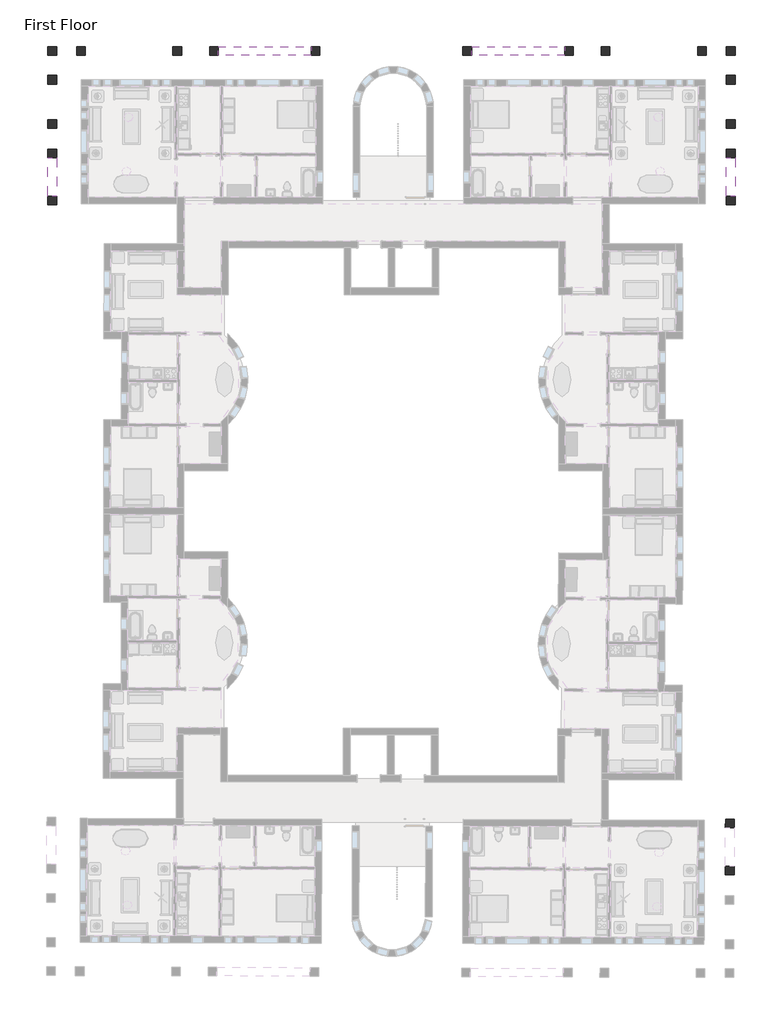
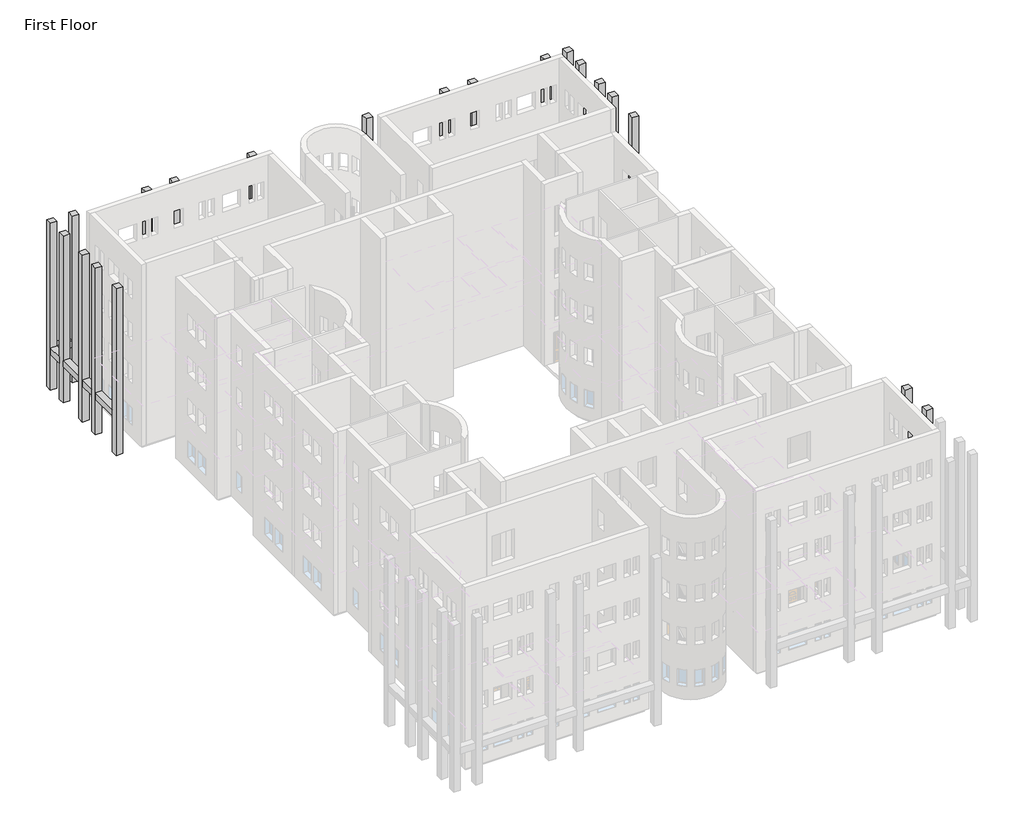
# One storey, part 18 of 23: 20 columns, 4 beams.
"""IFC4 building model written with IfcOpenShell, lengths in millimetres."""

from ifc_helpers import new_model, si_unit, frame, origin, place, context, project, spatial, polyline, outline, extrude, faceted_brep, element, save

model = new_model("IFC4")

# Units and contexts
model_context = context("Model", 3, world=origin())
ifc_project = project(units=[si_unit("LENGTHUNIT", "METRE", prefix="MILLI")], contexts=[model_context])

# Site, building, storey
site = spatial("IfcSite", under=ifc_project)
building = spatial("IfcBuilding", under=site)
storey = spatial("IfcBuildingStorey", under=building, Name="First Floor", Elevation=0.0)

# Beams
placement = place(None, origin())
element("IfcBeam", 1, ObjectType="M_Concrete-Rectangular Beam : 450 x 450", at=placement, inside=storey, context=model_context, shape_type="SweptSolid", body=[
    extrude(outline(polyline([(-1643.3416203, 4481.1188386), (-1643.3416203, 4031.1188386), (-2693.3416203, 4031.1188386), (-2693.3416203, 4481.1188386), (-1643.3416203, 4481.1188386)])), frame((0.0, 0.0, 2598.0), z_axis=(0.0, 0.0, 1.0), x_axis=(1.0, 0.0, 0.0)), (0.0, 0.0, 1.0), 450.0),
    extrude(outline(polyline([(-14885.3416203, 4031.1188386), (-14885.3416203, 4481.1188386), (-10043.3416203, 4481.1188386), (-10043.3416203, 4031.1188386), (-14885.3416203, 4031.1188386)])), frame((0.0, 0.0, 2598.0), z_axis=(0.0, 0.0, 1.0), x_axis=(1.0, 0.0, 0.0)), (0.0, 0.0, 1.0), 450.0),
    extrude(outline(polyline([(-3143.3416203, 4481.1188386), (-3143.3416203, 4031.1188386), (-7693.3416203, 4031.1188386), (-7693.3416203, 4481.1188386), (-3143.3416203, 4481.1188386)])), frame((0.0, 0.0, 2598.0), z_axis=(0.0, 0.0, 1.0), x_axis=(1.0, 0.0, 0.0)), (0.0, 0.0, 1.0), 450.0),
    extrude(outline(polyline([(-8143.3416203, 4481.1188386), (-8143.3416203, 4031.1188386), (-9593.3416203, 4031.1188386), (-9593.3416203, 4481.1188386), (-8143.3416203, 4481.1188386)])), frame((0.0, 0.0, 2598.0), z_axis=(0.0, 0.0, 1.0), x_axis=(1.0, 0.0, 0.0)), (0.0, 0.0, 1.0), 450.0),
])
element("IfcBeam", 2, ObjectType="M_Concrete-Rectangular Beam : 450 x 450", at=placement, inside=storey, context=model_context, shape_type="SweptSolid", body=[
    extrude(outline(polyline([(-1193.3416203, -3289.8811614), (-1643.3416203, -3289.8811614), (-1643.3416203, -1295.3811614), (-1193.3416203, -1295.3811614), (-1193.3416203, -3289.8811614)])), frame((0.0, 0.0, 2598.0), z_axis=(0.0, 0.0, 1.0), x_axis=(1.0, 0.0, 0.0)), (0.0, 0.0, 1.0), 450.0),
    extrude(outline(polyline([(-1643.3416203, 4031.1188386), (-1193.3416203, 4031.1188386), (-1193.3416203, 2981.1188386), (-1643.3416203, 2981.1188386), (-1643.3416203, 4031.1188386)])), frame((0.0, 0.0, 2598.0), z_axis=(0.0, 0.0, 1.0), x_axis=(1.0, 0.0, 0.0)), (0.0, 0.0, 1.0), 450.0),
    extrude(outline(polyline([(-1643.3416203, 2531.1188386), (-1193.3416203, 2531.1188386), (-1193.3416203, 681.1188386), (-1643.3416203, 681.1188386), (-1643.3416203, 2531.1188386)])), frame((0.0, 0.0, 2598.0), z_axis=(0.0, 0.0, 1.0), x_axis=(1.0, 0.0, 0.0)), (0.0, 0.0, 1.0), 450.0),
    extrude(outline(polyline([(-1643.3416203, 231.1188386), (-1193.3416203, 231.1188386), (-1193.3416203, -845.3811614), (-1643.3416203, -845.3811614), (-1643.3416203, 231.1188386)])), frame((0.0, 0.0, 2598.0), z_axis=(0.0, 0.0, 1.0), x_axis=(1.0, 0.0, 0.0)), (0.0, 0.0, 1.0), 450.0),
])
element("IfcBeam", 3, ObjectType="M_Concrete-Rectangular Beam : 450 x 450", at=placement, inside=storey, context=model_context, shape_type="SweptSolid", body=[
    extrude(outline(polyline([(-36458.8416203, 4031.1188386), (-36458.8416203, 4481.1188386), (-35408.8416203, 4481.1188386), (-35408.8416203, 4031.1188386), (-36458.8416203, 4031.1188386)])), frame((0.0, 0.0, 2598.0), z_axis=(0.0, 0.0, 1.0), x_axis=(1.0, 0.0, 0.0)), (0.0, 0.0, 1.0), 450.0),
    extrude(outline(polyline([(-23216.8416203, 4481.1188386), (-23216.8416203, 4031.1188386), (-28058.8416203, 4031.1188386), (-28058.8416203, 4481.1188386), (-23216.8416203, 4481.1188386)])), frame((0.0, 0.0, 2598.0), z_axis=(0.0, 0.0, 1.0), x_axis=(1.0, 0.0, 0.0)), (0.0, 0.0, 1.0), 450.0),
    extrude(outline(polyline([(-34958.8416203, 4031.1188386), (-34958.8416203, 4481.1188386), (-30408.8416203, 4481.1188386), (-30408.8416203, 4031.1188386), (-34958.8416203, 4031.1188386)])), frame((0.0, 0.0, 2598.0), z_axis=(0.0, 0.0, 1.0), x_axis=(1.0, 0.0, 0.0)), (0.0, 0.0, 1.0), 450.0),
    extrude(outline(polyline([(-29958.8416203, 4031.1188386), (-29958.8416203, 4481.1188386), (-28508.8416203, 4481.1188386), (-28508.8416203, 4031.1188386), (-29958.8416203, 4031.1188386)])), frame((0.0, 0.0, 2598.0), z_axis=(0.0, 0.0, 1.0), x_axis=(1.0, 0.0, 0.0)), (0.0, 0.0, 1.0), 450.0),
])
element("IfcBeam", 4, ObjectType="M_Concrete-Rectangular Beam : 450 x 450", at=placement, inside=storey, context=model_context, shape_type="SweptSolid", body=[
    extrude(outline(polyline([(-36458.8416203, -3289.8811614), (-36908.8416203, -3289.8811614), (-36908.8416203, -1295.3811614), (-36458.8416203, -1295.3811614), (-36458.8416203, -3289.8811614)])), frame((0.0, 0.0, 2598.0), z_axis=(0.0, 0.0, 1.0), x_axis=(1.0, 0.0, 0.0)), (0.0, 0.0, 1.0), 450.0),
    extrude(outline(polyline([(-36458.8416203, 2981.1188386), (-36908.8416203, 2981.1188386), (-36908.8416203, 4031.1188386), (-36458.8416203, 4031.1188386), (-36458.8416203, 2981.1188386)])), frame((0.0, 0.0, 2598.0), z_axis=(0.0, 0.0, 1.0), x_axis=(1.0, 0.0, 0.0)), (0.0, 0.0, 1.0), 450.0),
    extrude(outline(polyline([(-36908.8416203, 2531.1188386), (-36458.8416203, 2531.1188386), (-36458.8416203, 681.1188386), (-36908.8416203, 681.1188386), (-36908.8416203, 2531.1188386)])), frame((0.0, 0.0, 2598.0), z_axis=(0.0, 0.0, 1.0), x_axis=(1.0, 0.0, 0.0)), (0.0, 0.0, 1.0), 450.0),
    extrude(outline(polyline([(-36908.8416203, 231.1188386), (-36458.8416203, 231.1188386), (-36458.8416203, -845.3811614), (-36908.8416203, -845.3811614), (-36908.8416203, 231.1188386)])), frame((0.0, 0.0, 2598.0), z_axis=(0.0, 0.0, 1.0), x_axis=(1.0, 0.0, 0.0)), (0.0, 0.0, 1.0), 450.0),
])

# Columns
element("IfcColumn", 5, ObjectType="M_Concrete-Square-Column : 450 x 450mm", at=placement, inside=storey, context=model_context, shape_type="Brep", body=[
    faceted_brep([(-2693.3416203, 4481.1188386, 0.0), (-2693.3416203, 4031.1188386, 0.0), (-3143.3416203, 4031.1188386, 0.0), (-3143.3416203, 4481.1188386, 0.0), (-2693.3416203, 4481.1188386, 12042.0), (-2693.3416203, 4031.1188386, 12042.0), (-2693.3416203, 4031.1188386, 11742.0), (-2693.3416203, 4031.1188386, 9144.0), (-2693.3416203, 4031.1188386, 8694.0), (-2693.3416203, 4031.1188386, 6096.0), (-2693.3416203, 4031.1188386, 5646.0), (-2693.3416203, 4031.1188386, 3048.0), (-2693.3416203, 4031.1188386, 2598.0), (-2693.3416203, 4481.1188386, 2598.0), (-2693.3416203, 4481.1188386, 3048.0), (-2693.3416203, 4481.1188386, 5646.0), (-2693.3416203, 4481.1188386, 6096.0), (-2693.3416203, 4481.1188386, 8694.0), (-2693.3416203, 4481.1188386, 9144.0), (-2693.3416203, 4481.1188386, 11742.0), (-3143.3416203, 4031.1188386, 12042.0), (-3143.3416203, 4031.1188386, 11742.0), (-3143.3416203, 4031.1188386, 9144.0), (-3143.3416203, 4031.1188386, 8694.0), (-3143.3416203, 4031.1188386, 6096.0), (-3143.3416203, 4031.1188386, 5646.0), (-3143.3416203, 4031.1188386, 3048.0), (-3143.3416203, 4031.1188386, 2598.0), (-3143.3416203, 4481.1188386, 12042.0), (-3143.3416203, 4481.1188386, 11742.0), (-3143.3416203, 4481.1188386, 9144.0), (-3143.3416203, 4481.1188386, 8694.0), (-3143.3416203, 4481.1188386, 6096.0), (-3143.3416203, 4481.1188386, 5646.0), (-3143.3416203, 4481.1188386, 3048.0), (-3143.3416203, 4481.1188386, 2598.0)], [[[0, 1, 2, 3]], [[4, 5, 6, 7, 8, 9, 10, 11, 12, 1, 0, 13, 14, 15, 16, 17, 18, 19]], [[5, 20, 21, 22, 23, 24, 25, 26, 27, 2, 1, 12, 11, 10, 9, 8, 7, 6]], [[20, 28, 29, 30, 31, 32, 33, 34, 35, 3, 2, 27, 26, 25, 24, 23, 22, 21]], [[28, 4, 19, 18, 17, 16, 15, 14, 13, 0, 3, 35, 34, 33, 32, 31, 30, 29]], [[4, 28, 20, 5]]]),
])
element("IfcColumn", 6, ObjectType="M_Concrete-Square-Column : 450 x 450mm", at=placement, inside=storey, context=model_context, shape_type="Brep", body=[
    faceted_brep([(-7693.3416203, 4481.1188386, 0.0), (-7693.3416203, 4031.1188386, 0.0), (-8143.3416203, 4031.1188386, 0.0), (-8143.3416203, 4481.1188386, 0.0), (-7693.3416203, 4481.1188386, 12042.0), (-7693.3416203, 4031.1188386, 12042.0), (-7693.3416203, 4031.1188386, 11742.0), (-7693.3416203, 4031.1188386, 9144.0), (-7693.3416203, 4031.1188386, 8694.0), (-7693.3416203, 4031.1188386, 6096.0), (-7693.3416203, 4031.1188386, 5646.0), (-7693.3416203, 4031.1188386, 3048.0), (-7693.3416203, 4031.1188386, 2598.0), (-7693.3416203, 4481.1188386, 2598.0), (-7693.3416203, 4481.1188386, 3048.0), (-7693.3416203, 4481.1188386, 5646.0), (-7693.3416203, 4481.1188386, 6096.0), (-7693.3416203, 4481.1188386, 8694.0), (-7693.3416203, 4481.1188386, 9144.0), (-7693.3416203, 4481.1188386, 11742.0), (-8143.3416203, 4031.1188386, 12042.0), (-8143.3416203, 4031.1188386, 11742.0), (-8143.3416203, 4031.1188386, 9144.0), (-8143.3416203, 4031.1188386, 8694.0), (-8143.3416203, 4031.1188386, 6096.0), (-8143.3416203, 4031.1188386, 5646.0), (-8143.3416203, 4031.1188386, 3048.0), (-8143.3416203, 4031.1188386, 2598.0), (-8143.3416203, 4481.1188386, 12042.0), (-8143.3416203, 4481.1188386, 11742.0), (-8143.3416203, 4481.1188386, 9144.0), (-8143.3416203, 4481.1188386, 8694.0), (-8143.3416203, 4481.1188386, 6096.0), (-8143.3416203, 4481.1188386, 5646.0), (-8143.3416203, 4481.1188386, 3048.0), (-8143.3416203, 4481.1188386, 2598.0)], [[[0, 1, 2, 3]], [[4, 5, 6, 7, 8, 9, 10, 11, 12, 1, 0, 13, 14, 15, 16, 17, 18, 19]], [[5, 20, 21, 22, 23, 24, 25, 26, 27, 2, 1, 12, 11, 10, 9, 8, 7, 6]], [[20, 28, 29, 30, 31, 32, 33, 34, 35, 3, 2, 27, 26, 25, 24, 23, 22, 21]], [[28, 4, 19, 18, 17, 16, 15, 14, 13, 0, 3, 35, 34, 33, 32, 31, 30, 29]], [[4, 28, 20, 5]]]),
])
element("IfcColumn", 7, ObjectType="M_Concrete-Square-Column : 450 x 450mm", at=placement, inside=storey, context=model_context, shape_type="Brep", body=[
    faceted_brep([(-9593.3416203, 4481.1188386, 0.0), (-9593.3416203, 4031.1188386, 0.0), (-10043.3416203, 4031.1188386, 0.0), (-10043.3416203, 4481.1188386, 0.0), (-9593.3416203, 4481.1188386, 12042.0), (-9593.3416203, 4031.1188386, 12042.0), (-9593.3416203, 4031.1188386, 11742.0), (-9593.3416203, 4031.1188386, 9144.0), (-9593.3416203, 4031.1188386, 8694.0), (-9593.3416203, 4031.1188386, 6096.0), (-9593.3416203, 4031.1188386, 5646.0), (-9593.3416203, 4031.1188386, 3048.0), (-9593.3416203, 4031.1188386, 2598.0), (-9593.3416203, 4481.1188386, 2598.0), (-9593.3416203, 4481.1188386, 3048.0), (-9593.3416203, 4481.1188386, 5646.0), (-9593.3416203, 4481.1188386, 6096.0), (-9593.3416203, 4481.1188386, 8694.0), (-9593.3416203, 4481.1188386, 9144.0), (-9593.3416203, 4481.1188386, 11742.0), (-10043.3416203, 4031.1188386, 12042.0), (-10043.3416203, 4031.1188386, 11742.0), (-10043.3416203, 4031.1188386, 9144.0), (-10043.3416203, 4031.1188386, 8694.0), (-10043.3416203, 4031.1188386, 6096.0), (-10043.3416203, 4031.1188386, 5646.0), (-10043.3416203, 4031.1188386, 3048.0), (-10043.3416203, 4031.1188386, 2598.0), (-10043.3416203, 4481.1188386, 12042.0), (-10043.3416203, 4481.1188386, 11742.0), (-10043.3416203, 4481.1188386, 9144.0), (-10043.3416203, 4481.1188386, 8694.0), (-10043.3416203, 4481.1188386, 6096.0), (-10043.3416203, 4481.1188386, 5646.0), (-10043.3416203, 4481.1188386, 3048.0), (-10043.3416203, 4481.1188386, 2598.0)], [[[0, 1, 2, 3]], [[4, 5, 6, 7, 8, 9, 10, 11, 12, 1, 0, 13, 14, 15, 16, 17, 18, 19]], [[5, 20, 21, 22, 23, 24, 25, 26, 27, 2, 1, 12, 11, 10, 9, 8, 7, 6]], [[20, 28, 29, 30, 31, 32, 33, 34, 35, 3, 2, 27, 26, 25, 24, 23, 22, 21]], [[28, 4, 19, 18, 17, 16, 15, 14, 13, 0, 3, 35, 34, 33, 32, 31, 30, 29]], [[4, 28, 20, 5]]]),
])
element("IfcColumn", 8, ObjectType="M_Concrete-Square-Column : 450 x 450mm", at=placement, inside=storey, context=model_context, shape_type="Brep", body=[
    faceted_brep([(-14885.3416203, 4481.1188386, 0.0), (-14885.3416203, 4031.1188386, 0.0), (-15335.3416203, 4031.1188386, 0.0), (-15335.3416203, 4481.1188386, 0.0), (-14885.3416203, 4481.1188386, 12042.0), (-14885.3416203, 4031.1188386, 12042.0), (-14885.3416203, 4031.1188386, 11742.0), (-14885.3416203, 4481.1188386, 11742.0), (-15335.3416203, 4031.1188386, 12042.0), (-15335.3416203, 4031.1188386, 11742.0), (-15335.3416203, 4481.1188386, 12042.0), (-15335.3416203, 4481.1188386, 11742.0)], [[[0, 1, 2, 3]], [[4, 5, 6, 1, 0, 7]], [[5, 8, 9, 2, 1, 6]], [[8, 10, 11, 3, 2, 9]], [[10, 4, 7, 0, 3, 11]], [[4, 10, 8, 5]]]),
])
element("IfcColumn", 9, ObjectType="M_Concrete-Square-Column : 450 x 450mm", at=placement, inside=storey, context=model_context, shape_type="Brep", body=[
    faceted_brep([(-1193.3416203, 4481.1188386, 0.0), (-1193.3416203, 4031.1188386, 0.0), (-1643.3416203, 4031.1188386, 0.0), (-1643.3416203, 4481.1188386, 0.0), (-1193.3416203, 4481.1188386, 12042.0), (-1193.3416203, 4031.1188386, 12042.0), (-1193.3416203, 4031.1188386, 11742.0), (-1643.3416203, 4031.1188386, 12042.0), (-1643.3416203, 4031.1188386, 11742.0), (-1643.3416203, 4481.1188386, 12042.0), (-1643.3416203, 4481.1188386, 11742.0)], [[[0, 1, 2, 3]], [[4, 5, 6, 1, 0]], [[5, 7, 8, 2, 1, 6]], [[7, 9, 10, 3, 2, 8]], [[9, 4, 0, 3, 10]], [[4, 9, 7, 5]]]),
])
element("IfcColumn", 10, ObjectType="M_Concrete-Square-Column : 450 x 450mm", at=placement, inside=storey, context=model_context, shape_type="Brep", body=[
    faceted_brep([(-1193.3416203, 2981.1188386, 0.0), (-1193.3416203, 2531.1188386, 0.0), (-1643.3416203, 2531.1188386, 0.0), (-1643.3416203, 2981.1188386, 0.0), (-1193.3416203, 2981.1188386, 12042.0), (-1193.3416203, 2531.1188386, 12042.0), (-1193.3416203, 2531.1188386, 11742.0), (-1193.3416203, 2531.1188386, 9144.0), (-1193.3416203, 2531.1188386, 8694.0), (-1193.3416203, 2531.1188386, 6096.0), (-1193.3416203, 2531.1188386, 5646.0), (-1193.3416203, 2531.1188386, 3048.0), (-1193.3416203, 2531.1188386, 2598.0), (-1193.3416203, 2981.1188386, 2598.0), (-1193.3416203, 2981.1188386, 3048.0), (-1193.3416203, 2981.1188386, 5646.0), (-1193.3416203, 2981.1188386, 6096.0), (-1193.3416203, 2981.1188386, 8694.0), (-1193.3416203, 2981.1188386, 9144.0), (-1193.3416203, 2981.1188386, 11742.0), (-1643.3416203, 2531.1188386, 12042.0), (-1643.3416203, 2531.1188386, 11742.0), (-1643.3416203, 2531.1188386, 9144.0), (-1643.3416203, 2531.1188386, 8694.0), (-1643.3416203, 2531.1188386, 6096.0), (-1643.3416203, 2531.1188386, 5646.0), (-1643.3416203, 2531.1188386, 3048.0), (-1643.3416203, 2531.1188386, 2598.0), (-1643.3416203, 2981.1188386, 12042.0), (-1643.3416203, 2981.1188386, 11742.0), (-1643.3416203, 2981.1188386, 9144.0), (-1643.3416203, 2981.1188386, 8694.0), (-1643.3416203, 2981.1188386, 6096.0), (-1643.3416203, 2981.1188386, 5646.0), (-1643.3416203, 2981.1188386, 3048.0), (-1643.3416203, 2981.1188386, 2598.0)], [[[0, 1, 2, 3]], [[4, 5, 6, 7, 8, 9, 10, 11, 12, 1, 0, 13, 14, 15, 16, 17, 18, 19]], [[5, 20, 21, 22, 23, 24, 25, 26, 27, 2, 1, 12, 11, 10, 9, 8, 7, 6]], [[20, 28, 29, 30, 31, 32, 33, 34, 35, 3, 2, 27, 26, 25, 24, 23, 22, 21]], [[28, 4, 19, 18, 17, 16, 15, 14, 13, 0, 3, 35, 34, 33, 32, 31, 30, 29]], [[4, 28, 20, 5]]]),
])
element("IfcColumn", 11, ObjectType="M_Concrete-Square-Column : 450 x 450mm", at=placement, inside=storey, context=model_context, shape_type="Brep", body=[
    faceted_brep([(-1193.3416203, 681.1188386, 0.0), (-1193.3416203, 231.1188386, 0.0), (-1643.3416203, 231.1188386, 0.0), (-1643.3416203, 681.1188386, 0.0), (-1193.3416203, 681.1188386, 12042.0), (-1193.3416203, 231.1188386, 12042.0), (-1193.3416203, 231.1188386, 11742.0), (-1193.3416203, 231.1188386, 9144.0), (-1193.3416203, 231.1188386, 8694.0), (-1193.3416203, 231.1188386, 6096.0), (-1193.3416203, 231.1188386, 5646.0), (-1193.3416203, 231.1188386, 3048.0), (-1193.3416203, 231.1188386, 2598.0), (-1193.3416203, 681.1188386, 2598.0), (-1193.3416203, 681.1188386, 3048.0), (-1193.3416203, 681.1188386, 5646.0), (-1193.3416203, 681.1188386, 6096.0), (-1193.3416203, 681.1188386, 8694.0), (-1193.3416203, 681.1188386, 9144.0), (-1193.3416203, 681.1188386, 11742.0), (-1643.3416203, 231.1188386, 12042.0), (-1643.3416203, 231.1188386, 11742.0), (-1643.3416203, 231.1188386, 9144.0), (-1643.3416203, 231.1188386, 8694.0), (-1643.3416203, 231.1188386, 6096.0), (-1643.3416203, 231.1188386, 5646.0), (-1643.3416203, 231.1188386, 3048.0), (-1643.3416203, 231.1188386, 2598.0), (-1643.3416203, 681.1188386, 12042.0), (-1643.3416203, 681.1188386, 11742.0), (-1643.3416203, 681.1188386, 9144.0), (-1643.3416203, 681.1188386, 8694.0), (-1643.3416203, 681.1188386, 6096.0), (-1643.3416203, 681.1188386, 5646.0), (-1643.3416203, 681.1188386, 3048.0), (-1643.3416203, 681.1188386, 2598.0)], [[[0, 1, 2, 3]], [[4, 5, 6, 7, 8, 9, 10, 11, 12, 1, 0, 13, 14, 15, 16, 17, 18, 19]], [[5, 20, 21, 22, 23, 24, 25, 26, 27, 2, 1, 12, 11, 10, 9, 8, 7, 6]], [[20, 28, 29, 30, 31, 32, 33, 34, 35, 3, 2, 27, 26, 25, 24, 23, 22, 21]], [[28, 4, 19, 18, 17, 16, 15, 14, 13, 0, 3, 35, 34, 33, 32, 31, 30, 29]], [[4, 28, 20, 5]]]),
])
element("IfcColumn", 12, ObjectType="M_Concrete-Square-Column : 450 x 450mm", at=placement, inside=storey, context=model_context, shape_type="Brep", body=[
    faceted_brep([(-1193.3416203, -845.3811614, 0.0), (-1193.3416203, -1295.3811614, 0.0), (-1643.3416203, -1295.3811614, 0.0), (-1643.3416203, -845.3811614, 0.0), (-1193.3416203, -845.3811614, 12042.0), (-1193.3416203, -1295.3811614, 12042.0), (-1193.3416203, -1295.3811614, 11742.0), (-1193.3416203, -1295.3811614, 9144.0), (-1193.3416203, -1295.3811614, 8694.0), (-1193.3416203, -1295.3811614, 6096.0), (-1193.3416203, -1295.3811614, 5646.0), (-1193.3416203, -1295.3811614, 3048.0), (-1193.3416203, -1295.3811614, 2598.0), (-1193.3416203, -845.3811614, 2598.0), (-1193.3416203, -845.3811614, 3048.0), (-1193.3416203, -845.3811614, 5646.0), (-1193.3416203, -845.3811614, 6096.0), (-1193.3416203, -845.3811614, 8694.0), (-1193.3416203, -845.3811614, 9144.0), (-1193.3416203, -845.3811614, 11742.0), (-1643.3416203, -1295.3811614, 12042.0), (-1643.3416203, -1295.3811614, 11742.0), (-1643.3416203, -1295.3811614, 9144.0), (-1643.3416203, -1295.3811614, 8694.0), (-1643.3416203, -1295.3811614, 6096.0), (-1643.3416203, -1295.3811614, 5646.0), (-1643.3416203, -1295.3811614, 3048.0), (-1643.3416203, -1295.3811614, 2598.0), (-1643.3416203, -845.3811614, 12042.0), (-1643.3416203, -845.3811614, 11742.0), (-1643.3416203, -845.3811614, 9144.0), (-1643.3416203, -845.3811614, 8694.0), (-1643.3416203, -845.3811614, 6096.0), (-1643.3416203, -845.3811614, 5646.0), (-1643.3416203, -845.3811614, 3048.0), (-1643.3416203, -845.3811614, 2598.0)], [[[0, 1, 2, 3]], [[4, 5, 6, 7, 8, 9, 10, 11, 12, 1, 0, 13, 14, 15, 16, 17, 18, 19]], [[5, 20, 21, 22, 23, 24, 25, 26, 27, 2, 1, 12, 11, 10, 9, 8, 7, 6]], [[20, 28, 29, 30, 31, 32, 33, 34, 35, 3, 2, 27, 26, 25, 24, 23, 22, 21]], [[28, 4, 19, 18, 17, 16, 15, 14, 13, 0, 3, 35, 34, 33, 32, 31, 30, 29]], [[4, 28, 20, 5]]]),
])
element("IfcColumn", 13, ObjectType="M_Concrete-Square-Column : 450 x 450mm", at=placement, inside=storey, context=model_context, shape_type="Brep", body=[
    faceted_brep([(-1193.3416203, -3289.8811614, 0.0), (-1193.3416203, -3739.8811614, 0.0), (-1643.3416203, -3739.8811614, 0.0), (-1643.3416203, -3289.8811614, 0.0), (-1193.3416203, -3289.8811614, 12042.0), (-1193.3416203, -3739.8811614, 12042.0), (-1193.3416203, -3739.8811614, 11742.0), (-1193.3416203, -3289.8811614, 11742.0), (-1643.3416203, -3739.8811614, 12042.0), (-1643.3416203, -3739.8811614, 11742.0), (-1643.3416203, -3289.8811614, 12042.0), (-1643.3416203, -3289.8811614, 11742.0)], [[[0, 1, 2, 3]], [[4, 5, 6, 1, 0, 7]], [[5, 8, 9, 2, 1, 6]], [[8, 10, 11, 3, 2, 9]], [[10, 4, 7, 0, 3, 11]], [[4, 10, 8, 5]]]),
])
element("IfcColumn", 14, ObjectType="M_Concrete-Square-Column : 450 x 450mm", at=placement, inside=storey, context=model_context, shape_type="Brep", body=[
    faceted_brep([(-35408.8416203, 4481.1188386, 0.0), (-34958.8416203, 4481.1188386, 0.0), (-34958.8416203, 4031.1188386, 0.0), (-35408.8416203, 4031.1188386, 0.0), (-35408.8416203, 4481.1188386, 12042.0), (-35408.8416203, 4481.1188386, 11742.0), (-35408.8416203, 4481.1188386, 9144.0), (-35408.8416203, 4481.1188386, 8694.0), (-35408.8416203, 4481.1188386, 6096.0), (-35408.8416203, 4481.1188386, 5646.0), (-35408.8416203, 4481.1188386, 3048.0), (-35408.8416203, 4481.1188386, 2598.0), (-35408.8416203, 4031.1188386, 2598.0), (-35408.8416203, 4031.1188386, 3048.0), (-35408.8416203, 4031.1188386, 5646.0), (-35408.8416203, 4031.1188386, 6096.0), (-35408.8416203, 4031.1188386, 8694.0), (-35408.8416203, 4031.1188386, 9144.0), (-35408.8416203, 4031.1188386, 11742.0), (-35408.8416203, 4031.1188386, 12042.0), (-34958.8416203, 4031.1188386, 2598.0), (-34958.8416203, 4031.1188386, 3048.0), (-34958.8416203, 4031.1188386, 5646.0), (-34958.8416203, 4031.1188386, 6096.0), (-34958.8416203, 4031.1188386, 8694.0), (-34958.8416203, 4031.1188386, 9144.0), (-34958.8416203, 4031.1188386, 11742.0), (-34958.8416203, 4031.1188386, 12042.0), (-34958.8416203, 4481.1188386, 2598.0), (-34958.8416203, 4481.1188386, 3048.0), (-34958.8416203, 4481.1188386, 5646.0), (-34958.8416203, 4481.1188386, 6096.0), (-34958.8416203, 4481.1188386, 8694.0), (-34958.8416203, 4481.1188386, 9144.0), (-34958.8416203, 4481.1188386, 11742.0), (-34958.8416203, 4481.1188386, 12042.0)], [[[0, 1, 2, 3]], [[4, 5, 6, 7, 8, 9, 10, 11, 0, 3, 12, 13, 14, 15, 16, 17, 18, 19]], [[19, 18, 17, 16, 15, 14, 13, 12, 3, 2, 20, 21, 22, 23, 24, 25, 26, 27]], [[27, 26, 25, 24, 23, 22, 21, 20, 2, 1, 28, 29, 30, 31, 32, 33, 34, 35]], [[35, 34, 33, 32, 31, 30, 29, 28, 1, 0, 11, 10, 9, 8, 7, 6, 5, 4]], [[4, 19, 27, 35]]]),
])
element("IfcColumn", 15, ObjectType="M_Concrete-Square-Column : 450 x 450mm", at=placement, inside=storey, context=model_context, shape_type="Brep", body=[
    faceted_brep([(-30408.8416203, 4481.1188386, 0.0), (-29958.8416203, 4481.1188386, 0.0), (-29958.8416203, 4031.1188386, 0.0), (-30408.8416203, 4031.1188386, 0.0), (-30408.8416203, 4481.1188386, 12042.0), (-30408.8416203, 4481.1188386, 11742.0), (-30408.8416203, 4481.1188386, 9144.0), (-30408.8416203, 4481.1188386, 8694.0), (-30408.8416203, 4481.1188386, 6096.0), (-30408.8416203, 4481.1188386, 5646.0), (-30408.8416203, 4481.1188386, 3048.0), (-30408.8416203, 4481.1188386, 2598.0), (-30408.8416203, 4031.1188386, 2598.0), (-30408.8416203, 4031.1188386, 3048.0), (-30408.8416203, 4031.1188386, 5646.0), (-30408.8416203, 4031.1188386, 6096.0), (-30408.8416203, 4031.1188386, 8694.0), (-30408.8416203, 4031.1188386, 9144.0), (-30408.8416203, 4031.1188386, 11742.0), (-30408.8416203, 4031.1188386, 12042.0), (-29958.8416203, 4031.1188386, 2598.0), (-29958.8416203, 4031.1188386, 3048.0), (-29958.8416203, 4031.1188386, 5646.0), (-29958.8416203, 4031.1188386, 6096.0), (-29958.8416203, 4031.1188386, 8694.0), (-29958.8416203, 4031.1188386, 9144.0), (-29958.8416203, 4031.1188386, 11742.0), (-29958.8416203, 4031.1188386, 12042.0), (-29958.8416203, 4481.1188386, 2598.0), (-29958.8416203, 4481.1188386, 3048.0), (-29958.8416203, 4481.1188386, 5646.0), (-29958.8416203, 4481.1188386, 6096.0), (-29958.8416203, 4481.1188386, 8694.0), (-29958.8416203, 4481.1188386, 9144.0), (-29958.8416203, 4481.1188386, 11742.0), (-29958.8416203, 4481.1188386, 12042.0)], [[[0, 1, 2, 3]], [[4, 5, 6, 7, 8, 9, 10, 11, 0, 3, 12, 13, 14, 15, 16, 17, 18, 19]], [[19, 18, 17, 16, 15, 14, 13, 12, 3, 2, 20, 21, 22, 23, 24, 25, 26, 27]], [[27, 26, 25, 24, 23, 22, 21, 20, 2, 1, 28, 29, 30, 31, 32, 33, 34, 35]], [[35, 34, 33, 32, 31, 30, 29, 28, 1, 0, 11, 10, 9, 8, 7, 6, 5, 4]], [[4, 19, 27, 35]]]),
])
element("IfcColumn", 16, ObjectType="M_Concrete-Square-Column : 450 x 450mm", at=placement, inside=storey, context=model_context, shape_type="Brep", body=[
    faceted_brep([(-28508.8416203, 4481.1188386, 0.0), (-28058.8416203, 4481.1188386, 0.0), (-28058.8416203, 4031.1188386, 0.0), (-28508.8416203, 4031.1188386, 0.0), (-28508.8416203, 4481.1188386, 12042.0), (-28508.8416203, 4481.1188386, 11742.0), (-28508.8416203, 4481.1188386, 9144.0), (-28508.8416203, 4481.1188386, 8694.0), (-28508.8416203, 4481.1188386, 6096.0), (-28508.8416203, 4481.1188386, 5646.0), (-28508.8416203, 4481.1188386, 3048.0), (-28508.8416203, 4481.1188386, 2598.0), (-28508.8416203, 4031.1188386, 2598.0), (-28508.8416203, 4031.1188386, 3048.0), (-28508.8416203, 4031.1188386, 5646.0), (-28508.8416203, 4031.1188386, 6096.0), (-28508.8416203, 4031.1188386, 8694.0), (-28508.8416203, 4031.1188386, 9144.0), (-28508.8416203, 4031.1188386, 11742.0), (-28508.8416203, 4031.1188386, 12042.0), (-28058.8416203, 4031.1188386, 2598.0), (-28058.8416203, 4031.1188386, 3048.0), (-28058.8416203, 4031.1188386, 5646.0), (-28058.8416203, 4031.1188386, 6096.0), (-28058.8416203, 4031.1188386, 8694.0), (-28058.8416203, 4031.1188386, 9144.0), (-28058.8416203, 4031.1188386, 11742.0), (-28058.8416203, 4031.1188386, 12042.0), (-28058.8416203, 4481.1188386, 2598.0), (-28058.8416203, 4481.1188386, 3048.0), (-28058.8416203, 4481.1188386, 5646.0), (-28058.8416203, 4481.1188386, 6096.0), (-28058.8416203, 4481.1188386, 8694.0), (-28058.8416203, 4481.1188386, 9144.0), (-28058.8416203, 4481.1188386, 11742.0), (-28058.8416203, 4481.1188386, 12042.0)], [[[0, 1, 2, 3]], [[4, 5, 6, 7, 8, 9, 10, 11, 0, 3, 12, 13, 14, 15, 16, 17, 18, 19]], [[19, 18, 17, 16, 15, 14, 13, 12, 3, 2, 20, 21, 22, 23, 24, 25, 26, 27]], [[27, 26, 25, 24, 23, 22, 21, 20, 2, 1, 28, 29, 30, 31, 32, 33, 34, 35]], [[35, 34, 33, 32, 31, 30, 29, 28, 1, 0, 11, 10, 9, 8, 7, 6, 5, 4]], [[4, 19, 27, 35]]]),
])
element("IfcColumn", 17, ObjectType="M_Concrete-Square-Column : 450 x 450mm", at=placement, inside=storey, context=model_context, shape_type="Brep", body=[
    faceted_brep([(-23216.8416203, 4481.1188386, 0.0), (-22766.8416203, 4481.1188386, 0.0), (-22766.8416203, 4031.1188386, 0.0), (-23216.8416203, 4031.1188386, 0.0), (-23216.8416203, 4481.1188386, 12042.0), (-23216.8416203, 4481.1188386, 11742.0), (-23216.8416203, 4031.1188386, 11742.0), (-23216.8416203, 4031.1188386, 12042.0), (-22766.8416203, 4031.1188386, 11742.0), (-22766.8416203, 4031.1188386, 12042.0), (-22766.8416203, 4481.1188386, 11742.0), (-22766.8416203, 4481.1188386, 12042.0)], [[[0, 1, 2, 3]], [[4, 5, 0, 3, 6, 7]], [[7, 6, 3, 2, 8, 9]], [[9, 8, 2, 1, 10, 11]], [[11, 10, 1, 0, 5, 4]], [[4, 7, 9, 11]]]),
])
element("IfcColumn", 18, ObjectType="M_Concrete-Square-Column : 450 x 450mm", at=placement, inside=storey, context=model_context, shape_type="Brep", body=[
    faceted_brep([(-36908.8416203, 4481.1188386, 0.0), (-36458.8416203, 4481.1188386, 0.0), (-36458.8416203, 4031.1188386, 0.0), (-36908.8416203, 4031.1188386, 0.0), (-36908.8416203, 4481.1188386, 12042.0), (-36908.8416203, 4031.1188386, 11742.0), (-36908.8416203, 4031.1188386, 12042.0), (-36458.8416203, 4031.1188386, 11742.0), (-36458.8416203, 4031.1188386, 12042.0), (-36458.8416203, 4481.1188386, 11742.0), (-36458.8416203, 4481.1188386, 12042.0)], [[[0, 1, 2, 3]], [[4, 0, 3, 5, 6]], [[6, 5, 3, 2, 7, 8]], [[8, 7, 2, 1, 9, 10]], [[10, 9, 1, 0, 4]], [[4, 6, 8, 10]]]),
])
element("IfcColumn", 19, ObjectType="M_Concrete-Square-Column : 450 x 450mm", at=placement, inside=storey, context=model_context, shape_type="Brep", body=[
    faceted_brep([(-36908.8416203, 2981.1188386, 0.0), (-36458.8416203, 2981.1188386, 0.0), (-36458.8416203, 2531.1188386, 0.0), (-36908.8416203, 2531.1188386, 0.0), (-36908.8416203, 2981.1188386, 12042.0), (-36908.8416203, 2981.1188386, 11742.0), (-36908.8416203, 2981.1188386, 9144.0), (-36908.8416203, 2981.1188386, 8694.0), (-36908.8416203, 2981.1188386, 6096.0), (-36908.8416203, 2981.1188386, 5646.0), (-36908.8416203, 2981.1188386, 3048.0), (-36908.8416203, 2981.1188386, 2598.0), (-36908.8416203, 2531.1188386, 2598.0), (-36908.8416203, 2531.1188386, 3048.0), (-36908.8416203, 2531.1188386, 5646.0), (-36908.8416203, 2531.1188386, 6096.0), (-36908.8416203, 2531.1188386, 8694.0), (-36908.8416203, 2531.1188386, 9144.0), (-36908.8416203, 2531.1188386, 11742.0), (-36908.8416203, 2531.1188386, 12042.0), (-36458.8416203, 2531.1188386, 2598.0), (-36458.8416203, 2531.1188386, 3048.0), (-36458.8416203, 2531.1188386, 5646.0), (-36458.8416203, 2531.1188386, 6096.0), (-36458.8416203, 2531.1188386, 8694.0), (-36458.8416203, 2531.1188386, 9144.0), (-36458.8416203, 2531.1188386, 11742.0), (-36458.8416203, 2531.1188386, 12042.0), (-36458.8416203, 2981.1188386, 2598.0), (-36458.8416203, 2981.1188386, 3048.0), (-36458.8416203, 2981.1188386, 5646.0), (-36458.8416203, 2981.1188386, 6096.0), (-36458.8416203, 2981.1188386, 8694.0), (-36458.8416203, 2981.1188386, 9144.0), (-36458.8416203, 2981.1188386, 11742.0), (-36458.8416203, 2981.1188386, 12042.0)], [[[0, 1, 2, 3]], [[4, 5, 6, 7, 8, 9, 10, 11, 0, 3, 12, 13, 14, 15, 16, 17, 18, 19]], [[19, 18, 17, 16, 15, 14, 13, 12, 3, 2, 20, 21, 22, 23, 24, 25, 26, 27]], [[27, 26, 25, 24, 23, 22, 21, 20, 2, 1, 28, 29, 30, 31, 32, 33, 34, 35]], [[35, 34, 33, 32, 31, 30, 29, 28, 1, 0, 11, 10, 9, 8, 7, 6, 5, 4]], [[4, 19, 27, 35]]]),
])
element("IfcColumn", 20, ObjectType="M_Concrete-Square-Column : 450 x 450mm", at=placement, inside=storey, context=model_context, shape_type="Brep", body=[
    faceted_brep([(-36908.8416203, 681.1188386, 0.0), (-36458.8416203, 681.1188386, 0.0), (-36458.8416203, 231.1188386, 0.0), (-36908.8416203, 231.1188386, 0.0), (-36908.8416203, 681.1188386, 12042.0), (-36908.8416203, 681.1188386, 11742.0), (-36908.8416203, 681.1188386, 9144.0), (-36908.8416203, 681.1188386, 8694.0), (-36908.8416203, 681.1188386, 6096.0), (-36908.8416203, 681.1188386, 5646.0), (-36908.8416203, 681.1188386, 3048.0), (-36908.8416203, 681.1188386, 2598.0), (-36908.8416203, 231.1188386, 2598.0), (-36908.8416203, 231.1188386, 3048.0), (-36908.8416203, 231.1188386, 5646.0), (-36908.8416203, 231.1188386, 6096.0), (-36908.8416203, 231.1188386, 8694.0), (-36908.8416203, 231.1188386, 9144.0), (-36908.8416203, 231.1188386, 11742.0), (-36908.8416203, 231.1188386, 12042.0), (-36458.8416203, 231.1188386, 2598.0), (-36458.8416203, 231.1188386, 3048.0), (-36458.8416203, 231.1188386, 5646.0), (-36458.8416203, 231.1188386, 6096.0), (-36458.8416203, 231.1188386, 8694.0), (-36458.8416203, 231.1188386, 9144.0), (-36458.8416203, 231.1188386, 11742.0), (-36458.8416203, 231.1188386, 12042.0), (-36458.8416203, 681.1188386, 2598.0), (-36458.8416203, 681.1188386, 3048.0), (-36458.8416203, 681.1188386, 5646.0), (-36458.8416203, 681.1188386, 6096.0), (-36458.8416203, 681.1188386, 8694.0), (-36458.8416203, 681.1188386, 9144.0), (-36458.8416203, 681.1188386, 11742.0), (-36458.8416203, 681.1188386, 12042.0)], [[[0, 1, 2, 3]], [[4, 5, 6, 7, 8, 9, 10, 11, 0, 3, 12, 13, 14, 15, 16, 17, 18, 19]], [[19, 18, 17, 16, 15, 14, 13, 12, 3, 2, 20, 21, 22, 23, 24, 25, 26, 27]], [[27, 26, 25, 24, 23, 22, 21, 20, 2, 1, 28, 29, 30, 31, 32, 33, 34, 35]], [[35, 34, 33, 32, 31, 30, 29, 28, 1, 0, 11, 10, 9, 8, 7, 6, 5, 4]], [[4, 19, 27, 35]]]),
])
element("IfcColumn", 21, ObjectType="M_Concrete-Square-Column : 450 x 450mm", at=placement, inside=storey, context=model_context, shape_type="Brep", body=[
    faceted_brep([(-36908.8416203, -845.3811614, 0.0), (-36458.8416203, -845.3811614, 0.0), (-36458.8416203, -1295.3811614, 0.0), (-36908.8416203, -1295.3811614, 0.0), (-36908.8416203, -845.3811614, 12042.0), (-36908.8416203, -845.3811614, 11742.0), (-36908.8416203, -845.3811614, 9144.0), (-36908.8416203, -845.3811614, 8694.0), (-36908.8416203, -845.3811614, 6096.0), (-36908.8416203, -845.3811614, 5646.0), (-36908.8416203, -845.3811614, 3048.0), (-36908.8416203, -845.3811614, 2598.0), (-36908.8416203, -1295.3811614, 2598.0), (-36908.8416203, -1295.3811614, 3048.0), (-36908.8416203, -1295.3811614, 5646.0), (-36908.8416203, -1295.3811614, 6096.0), (-36908.8416203, -1295.3811614, 8694.0), (-36908.8416203, -1295.3811614, 9144.0), (-36908.8416203, -1295.3811614, 11742.0), (-36908.8416203, -1295.3811614, 12042.0), (-36458.8416203, -1295.3811614, 2598.0), (-36458.8416203, -1295.3811614, 3048.0), (-36458.8416203, -1295.3811614, 5646.0), (-36458.8416203, -1295.3811614, 6096.0), (-36458.8416203, -1295.3811614, 8694.0), (-36458.8416203, -1295.3811614, 9144.0), (-36458.8416203, -1295.3811614, 11742.0), (-36458.8416203, -1295.3811614, 12042.0), (-36458.8416203, -845.3811614, 2598.0), (-36458.8416203, -845.3811614, 3048.0), (-36458.8416203, -845.3811614, 5646.0), (-36458.8416203, -845.3811614, 6096.0), (-36458.8416203, -845.3811614, 8694.0), (-36458.8416203, -845.3811614, 9144.0), (-36458.8416203, -845.3811614, 11742.0), (-36458.8416203, -845.3811614, 12042.0)], [[[0, 1, 2, 3]], [[4, 5, 6, 7, 8, 9, 10, 11, 0, 3, 12, 13, 14, 15, 16, 17, 18, 19]], [[19, 18, 17, 16, 15, 14, 13, 12, 3, 2, 20, 21, 22, 23, 24, 25, 26, 27]], [[27, 26, 25, 24, 23, 22, 21, 20, 2, 1, 28, 29, 30, 31, 32, 33, 34, 35]], [[35, 34, 33, 32, 31, 30, 29, 28, 1, 0, 11, 10, 9, 8, 7, 6, 5, 4]], [[4, 19, 27, 35]]]),
])
element("IfcColumn", 22, ObjectType="M_Concrete-Square-Column : 450 x 450mm", at=placement, inside=storey, context=model_context, shape_type="Brep", body=[
    faceted_brep([(-36908.8416203, -3289.8811614, 0.0), (-36458.8416203, -3289.8811614, 0.0), (-36458.8416203, -3739.8811614, 0.0), (-36908.8416203, -3739.8811614, 0.0), (-36908.8416203, -3289.8811614, 12042.0), (-36908.8416203, -3289.8811614, 11742.0), (-36908.8416203, -3739.8811614, 11742.0), (-36908.8416203, -3739.8811614, 12042.0), (-36458.8416203, -3739.8811614, 11742.0), (-36458.8416203, -3739.8811614, 12042.0), (-36458.8416203, -3289.8811614, 11742.0), (-36458.8416203, -3289.8811614, 12042.0)], [[[0, 1, 2, 3]], [[4, 5, 0, 3, 6, 7]], [[7, 6, 3, 2, 8, 9]], [[9, 8, 2, 1, 10, 11]], [[11, 10, 1, 0, 5, 4]], [[4, 7, 9, 11]]]),
])
element("IfcColumn", 23, ObjectType="M_Concrete-Square-Column : 450 x 450mm", at=placement, inside=storey, context=model_context, shape_type="Brep", body=[
    faceted_brep([(-1247.9540911, -38576.0287031, 0.0), (-1697.9522056, -38574.7260188, 0.0), (-1696.6495213, -38124.7279044, 0.0), (-1246.6514068, -38126.0305886, 0.0), (-1247.9540911, -38576.0287031, 12042.0), (-1247.9540911, -38576.0287031, 11742.0), (-1247.9540911, -38576.0287031, 9144.0), (-1247.9540911, -38576.0287031, 8694.0), (-1247.9540911, -38576.0287031, 6096.0), (-1247.9540911, -38576.0287031, 5646.0), (-1247.9540911, -38576.0287031, 3048.0), (-1247.9540911, -38576.0287031, 2598.0), (-1246.6514068, -38126.0305886, 2598.0), (-1246.6514068, -38126.0305886, 3048.0), (-1246.6514068, -38126.0305886, 5646.0), (-1246.6514068, -38126.0305886, 6096.0), (-1246.6514068, -38126.0305886, 8694.0), (-1246.6514068, -38126.0305886, 9144.0), (-1246.6514068, -38126.0305886, 11742.0), (-1246.6514068, -38126.0305886, 12042.0), (-1696.6495213, -38124.7279044, 2598.0), (-1696.6495213, -38124.7279044, 3048.0), (-1696.6495213, -38124.7279044, 5646.0), (-1696.6495213, -38124.7279044, 6096.0), (-1696.6495213, -38124.7279044, 8694.0), (-1696.6495213, -38124.7279044, 9144.0), (-1696.6495213, -38124.7279044, 11742.0), (-1696.6495213, -38124.7279044, 12042.0), (-1697.9522056, -38574.7260188, 2598.0), (-1697.9522056, -38574.7260188, 3048.0), (-1697.9522056, -38574.7260188, 5646.0), (-1697.9522056, -38574.7260188, 6096.0), (-1697.9522056, -38574.7260188, 8694.0), (-1697.9522056, -38574.7260188, 9144.0), (-1697.9522056, -38574.7260188, 11742.0), (-1697.9522056, -38574.7260188, 12042.0)], [[[0, 1, 2, 3]], [[4, 5, 6, 7, 8, 9, 10, 11, 0, 3, 12, 13, 14, 15, 16, 17, 18, 19]], [[19, 18, 17, 16, 15, 14, 13, 12, 3, 2, 20, 21, 22, 23, 24, 25, 26, 27]], [[27, 26, 25, 24, 23, 22, 21, 20, 2, 1, 28, 29, 30, 31, 32, 33, 34, 35]], [[35, 34, 33, 32, 31, 30, 29, 28, 1, 0, 11, 10, 9, 8, 7, 6, 5, 4]], [[4, 19, 27, 35]]]),
])
element("IfcColumn", 24, ObjectType="M_Concrete-Square-Column : 450 x 450mm", at=placement, inside=storey, context=model_context, shape_type="Brep", body=[
    faceted_brep([(-1240.8776207, -36131.5389458, 0.0), (-1690.8757352, -36130.2362615, 0.0), (-1689.5730509, -35680.2381471, 0.0), (-1239.5749364, -35681.5408313, 0.0), (-1240.8776207, -36131.5389458, 12042.0), (-1240.8776207, -36131.5389458, 11742.0), (-1239.5749364, -35681.5408313, 11742.0), (-1239.5749364, -35681.5408313, 12042.0), (-1689.5730509, -35680.2381471, 11742.0), (-1689.5730509, -35680.2381471, 12042.0), (-1690.8757352, -36130.2362615, 11742.0), (-1690.8757352, -36130.2362615, 12042.0)], [[[0, 1, 2, 3]], [[4, 5, 0, 3, 6, 7]], [[7, 6, 3, 2, 8, 9]], [[9, 8, 2, 1, 10, 11]], [[11, 10, 1, 0, 5, 4]], [[4, 7, 9, 11]]]),
])

save(model, "model.ifc")
